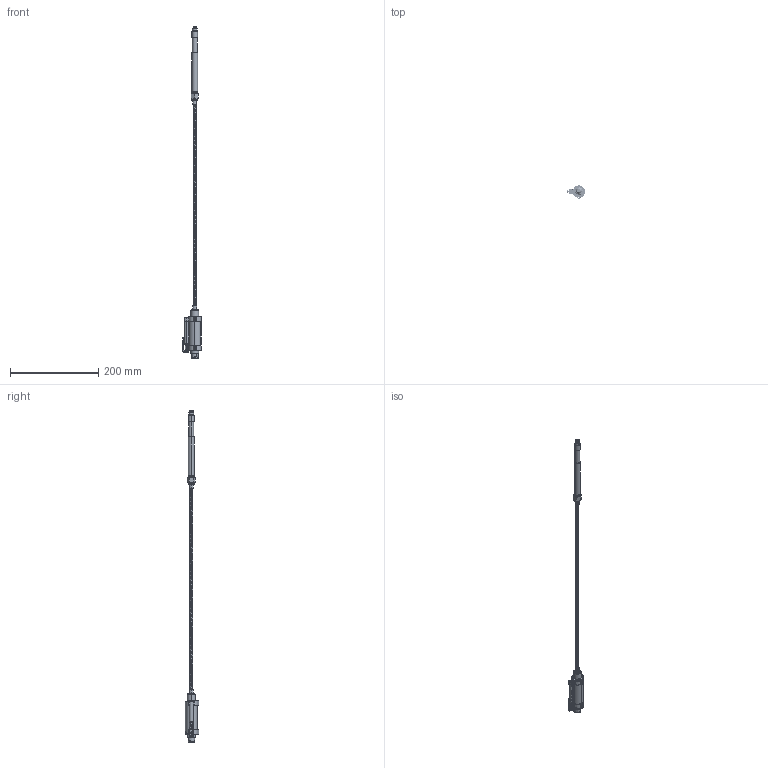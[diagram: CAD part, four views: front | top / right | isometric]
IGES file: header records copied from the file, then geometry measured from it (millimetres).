
Start section: SolidWorks IGES file using analytic representation for surfaces
Global section: file name: C:\Documents and Settings\cherchi\Desktop\Melt\MN1\3D\Iges 5.3\MN1.IGS; native system: SolidWorks 2010; preprocessor: SolidWorks 2010; author: giuseppe.cherchi; date: 100730.115407; units: millimetre
Bounding box: 41.99 x 29.75 x 753.97 mm (x, y, z)
Surface area: 58201.4 mm2 (no closed solid volume)
Topology: 0 solids, 0 shells, 2073 faces, 21445 edges, 21341 vertices
Faces by surface type: bspline 1331, revolution 742
